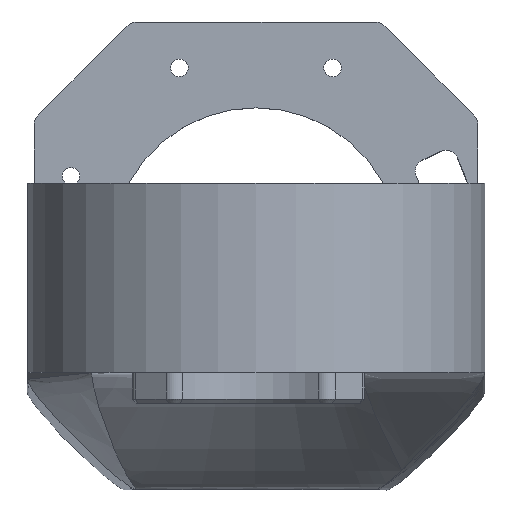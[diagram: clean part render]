
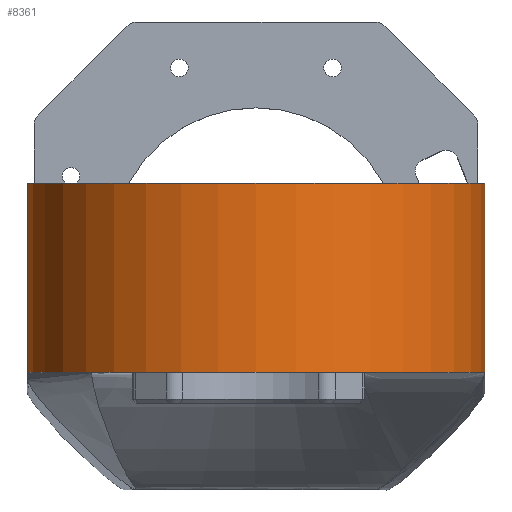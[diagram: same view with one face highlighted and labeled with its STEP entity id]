
A CAD part, top view. The second image highlights one B-rep face of the part: STEP entity #8361.
In plain terms, the highlighted cylindrical face has radius 56 mm (diameter 112 mm), a partial arc.
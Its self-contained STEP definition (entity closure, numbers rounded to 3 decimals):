
#1677=CARTESIAN_POINT('',(126.,-33.5,-94.));
#1678=DIRECTION('',(0.,1.,0.));
#1679=DIRECTION('',(0.,0.,1.));
#1680=AXIS2_PLACEMENT_3D('',#1677,#1678,#1679);
#1691=CARTESIAN_POINT('',(126.,-33.5,-94.));
#1692=DIRECTION('',(0.,1.,0.));
#1693=DIRECTION('',(-0.719,0.,-0.696));
#1694=AXIS2_PLACEMENT_3D('',#1691,#1692,#1693);
#1834=DIRECTION('',(0.,-1.,0.));
#1835=VECTOR('',#1834,46.25);
#1836=CARTESIAN_POINT('',(182.,12.75,-94.));
#1837=LINE('',#1836,#1835);
#1838=DIRECTION('',(0.,1.,0.));
#1839=VECTOR('',#1838,46.25);
#1840=CARTESIAN_POINT('',(85.768,-33.5,
-132.952));
#1841=LINE('',#1840,#1839);
#1854=CARTESIAN_POINT('',(126.,12.75,-94.));
#1855=DIRECTION('',(0.,-1.,0.));
#1856=DIRECTION('',(1.,0.,0.));
#1857=AXIS2_PLACEMENT_3D('',#1854,#1855,#1856);
#1859=CARTESIAN_POINT('',(126.,12.75,-94.));
#1860=DIRECTION('',(0.,-1.,0.));
#1861=DIRECTION('',(0.,0.,1.));
#1862=AXIS2_PLACEMENT_3D('',#1859,#1860,#1861);
#5919=CARTESIAN_POINT('',(126.,-33.5,-38.));
#5920=CARTESIAN_POINT('',(182.,-33.5,-94.));
#5921=VERTEX_POINT('',#5919);
#5922=VERTEX_POINT('',#5920);
#5927=CARTESIAN_POINT('',(85.765,-33.5,
-132.948));
#5928=VERTEX_POINT('',#5927);
#5981=CARTESIAN_POINT('',(182.,12.75,-94.));
#5982=VERTEX_POINT('',#5981);
#5983=CARTESIAN_POINT('',(85.768,12.75,-132.954));
#5984=VERTEX_POINT('',#5983);
#5985=CARTESIAN_POINT('',(126.,12.75,-38.));
#5986=VERTEX_POINT('',#5985);
#8344=CARTESIAN_POINT('',(126.,1252.213,-94.));
#8345=DIRECTION('',(0.,-1.,0.));
#8346=DIRECTION('',(0.,0.,-1.));
#8347=AXIS2_PLACEMENT_3D('',#8344,#8345,#8346);
#8348=CYLINDRICAL_SURFACE('',#8347,56.);
#8350=ORIENTED_EDGE('',*,*,#8349,.T.);
#8351=ORIENTED_EDGE('',*,*,#8259,.F.);
#8352=ORIENTED_EDGE('',*,*,#8267,.F.);
#8354=ORIENTED_EDGE('',*,*,#8353,.T.);
#8356=ORIENTED_EDGE('',*,*,#8355,.F.);
#8358=ORIENTED_EDGE('',*,*,#8357,.F.);
#8359=EDGE_LOOP('',(#8350,#8351,#8352,#8354,#8356,#8358));
#8360=FACE_OUTER_BOUND('',#8359,.F.);
#8361=ADVANCED_FACE('',(#8360),#8348,.T.);
#1681=CIRCLE('',#1680,56.);
#1695=CIRCLE('',#1694,56.);
#1858=CIRCLE('',#1857,56.);
#1863=CIRCLE('',#1862,56.);
#8259=EDGE_CURVE('',#5921,#5922,#1681,.T.);
#8267=EDGE_CURVE('',#5928,#5921,#1695,.T.);
#8349=EDGE_CURVE('',#5982,#5922,#1837,.T.);
#8353=EDGE_CURVE('',#5928,#5984,#1841,.T.);
#8355=EDGE_CURVE('',#5986,#5984,#1863,.T.);
#8357=EDGE_CURVE('',#5982,#5986,#1858,.T.);
